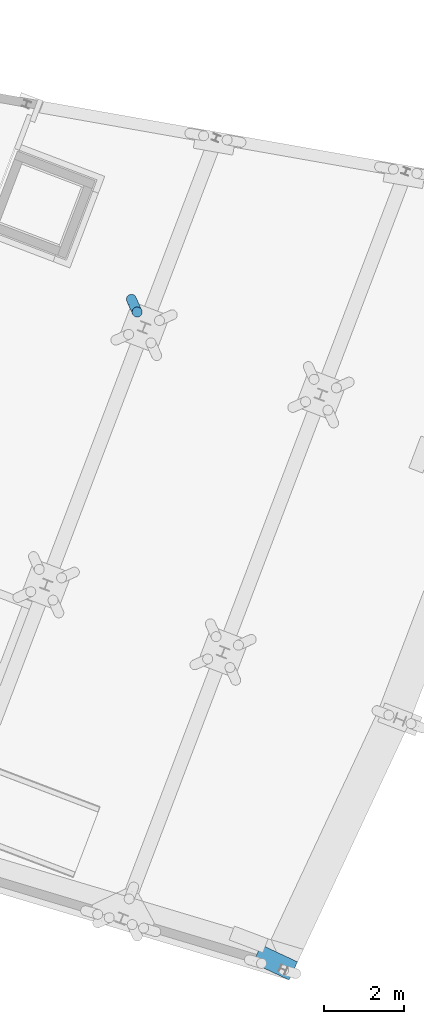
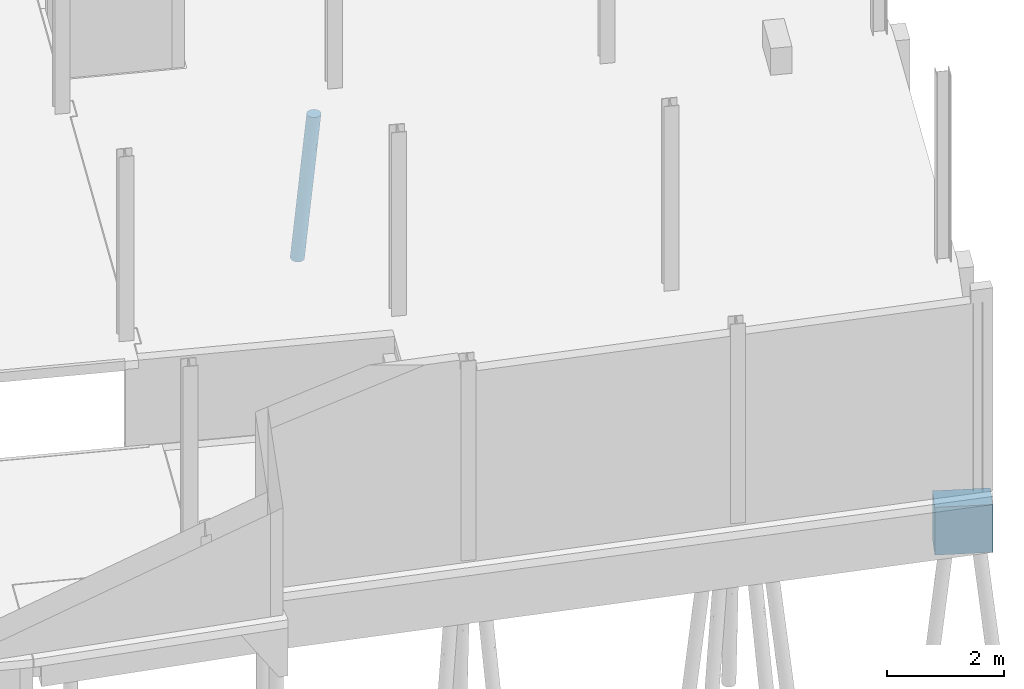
# One storey, part 16 of 46: 1 footing, 1 pile.
"""IFC2X3 building model written with IfcOpenShell, lengths in millimetres."""

from ifc_helpers import new_model, entity, si_unit, converted_unit, derived_unit, direction, frame, frame_2d, origin, place, context, subcontext, project, spatial, rectangle, extrude, faceted_brep, source, transform, mapped, material, type_object, type_shapes, element, save


model = new_model("IFC2X3")

# Units and contexts
model_context = context("Model", 3, precision=0.01, world=origin(), true_north=direction((6.123233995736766e-17, 1.0)))
body_context = subcontext(model_context, "Body", "Model", "MODEL_VIEW")
ifc_project = project(units=[si_unit("LENGTHUNIT", "METRE", prefix="MILLI"), converted_unit("PLANEANGLEUNIT", "DEGREE", entity("IfcPlaneAngleMeasure", 0.017453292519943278), si_unit("PLANEANGLEUNIT", "RADIAN"), dimensions=[0, 0, 0, 0, 0, 0, 0]), si_unit("AREAUNIT", "SQUARE_METRE"), derived_unit("THERMALTRANSMITTANCEUNIT", [(si_unit("MASSUNIT", "GRAM", prefix="KILO"), 1), (si_unit("THERMODYNAMICTEMPERATUREUNIT", "KELVIN"), -1), (si_unit("TIMEUNIT", "SECOND"), -3)])], contexts=[model_context])

# Site, building, storey
site_placement = place(None, frame((-72937.88054949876, 11621.45624098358, 0.0), z_axis=(0.0, 0.0, 1.0), x_axis=(0.9346418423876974, -0.35559053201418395, 0.0)))
site = spatial("IfcSite", under=ifc_project, at=site_placement, Name="Default", CompositionType="ELEMENT")
building_placement = place(site_placement, origin())
building = spatial("IfcBuilding", under=site, at=building_placement, CompositionType="ELEMENT")
storey_placement = place(building_placement, origin())
storey = spatial("IfcBuildingStorey", under=building, at=storey_placement, Name="00 begane grond", CompositionType="ELEMENT", Elevation=0.0)

# Pile
ifc_material_1 = material(Name="beton_gewapend_prefab-element_c45/55")
type_product_1 = type_object("IfcTypeProduct", Name="Type 01", material=ifc_material_1)
shared_shape_1 = source(origin(), body_context, "Body", "Brep", [
    faceted_brep([(-21.492869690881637, -34.07967924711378, -2142.478153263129), (41.770052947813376, 0.0, -1615.9926657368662), (50.02983679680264, -41.219149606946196, -1478.3429510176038), (-120.39371842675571, -27.815116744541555, -840.0), (-209.76851175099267, 0.0, -1615.9934634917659), (-196.5141812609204, -41.35907440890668, -1560.4595682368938), (-88.87736384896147, -91.39060439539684, -2432.143714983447), (-29.01608810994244, -89.9027707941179, -1907.5825387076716), (-105.46135978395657, -105.60554685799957, -2414.744852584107), (115.53639022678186, -54.235467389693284, -840.0), (100.55257203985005, -77.93622523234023, -840.0), (44.04069234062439, -66.4881713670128, -1422.150587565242), (-241.29781855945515, -62.499999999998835, -4011.9545633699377), (-228.8866429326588, -32.35238063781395, -4013.333582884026), (-181.63351961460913, -47.83542906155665, -3540.4622999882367), (127.99146025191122, 0.0, -840.0), (124.838162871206, -27.815116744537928, -840.0), (56.79144948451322, -112.62110848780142, -840.0), (-1.0422673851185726, -115.29700921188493, -1306.634534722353), (80.6380595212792, -97.7289353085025, -840.0), (-148.00042706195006, -121.55050259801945, -1927.9224619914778), (-119.59016639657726, -124.7753227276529, -1868.475336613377), (-82.66188090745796, -124.23733970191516, -1479.1096584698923), (2.222222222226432, -125.0, -840.0), (-25.764066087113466, -121.86598902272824, -840.0), (35.238837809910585, -88.30507823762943, -1343.9943162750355), (-38.428481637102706, -123.46402257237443, -1382.7576650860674), (30.208510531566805, -121.86598902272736, -840.0), (-105.46067851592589, -124.17311504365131, -1939.1271630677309), (-121.64165871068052, -118.88184081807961, -2304.5646505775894), (-59.29822656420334, -117.91120533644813, -1769.4495348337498), (-224.65342205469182, 0.0, -4013.803940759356), (-181.5427184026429, 0.0, -3625.8076078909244), (-187.86059930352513, -76.09517863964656, -3448.7603995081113), (-111.16783038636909, -79.40373738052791, -2734.720867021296), (-186.42266103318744, -99.1691675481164, -3226.87509877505), (-381.04339378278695, -120.74072828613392, -3996.4272772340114), (-348.8888888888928, -125.0, -4000.0), (-294.25946310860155, -123.9306076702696, -3360.589550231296), (-119.53291308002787, -47.835429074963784, -2981.55684112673), (-105.13946974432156, -22.11026756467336, -2920.330251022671), (-71.50265177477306, -37.61355729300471, -2582.985799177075), (-160.26870491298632, -23.53094104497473, -3414.1045295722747), (-286.7711554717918, -108.25317547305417, -4006.901970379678), (-238.88036705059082, -115.48494156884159, -3443.09153660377), (-261.04114782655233, -88.38834764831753, -4009.7608601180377), (-316.7343839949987, -120.74072828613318, -4003.5727227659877), (-84.00174733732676, -60.02171841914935, -2608.908596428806), (-61.65923548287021, -74.64816535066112, -2322.8523974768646), (-173.2739820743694, -115.31995815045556, -2856.223431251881), (-151.97718420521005, -123.99260475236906, -2371.2114813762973), (-123.54701580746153, 0.0, -840.0), (-250.82857575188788, -22.617884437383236, -2004.2180489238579), (-295.9900076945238, 0.0, -2391.986926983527), (-52.347005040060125, -112.6211084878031, -840.0), (-76.19361507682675, -97.72893530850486, -840.0), (-107.44397040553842, -105.89787173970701, -1225.6035634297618), (-281.4812245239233, -123.93060767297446, -3541.076638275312), (-109.06614769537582, -117.5733672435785, -1457.2474766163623), (-111.0919457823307, -54.235467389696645, -840.0), (-15.85514051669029, -105.72630914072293, -1606.5585830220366), (-146.68659472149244, -88.47759853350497, -1380.5978408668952), (-158.7756678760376, -105.96661342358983, -1688.5825591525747), (-348.5966640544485, -22.310072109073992, -2883.621631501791), (-384.5571817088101, 0.0, -3189.0914931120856), (-404.9818286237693, -23.95962394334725, -3393.9013620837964), (-416.2874807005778, -47.83542904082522, -3560.826702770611), (-468.89113484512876, -32.35238063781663, -3986.6664171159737), (-456.47995921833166, -62.500000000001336, -3988.0454366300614), (-337.6622645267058, -115.48494156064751, -3465.7921474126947), (-411.00662230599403, -108.25317547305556, -3993.0980296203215), (-255.6918544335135, -84.13968982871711, -2324.129304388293), (-241.96823570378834, -100.09571921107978, -2359.7174741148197), (-204.57839676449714, -89.69967503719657, -1912.8684599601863), (-96.10812759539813, -77.93622523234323, -840.0), (-436.73662995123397, -88.38834764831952, -3990.239139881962), (-377.92930595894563, -99.16916753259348, -3572.292603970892), (-206.96183482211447, -60.377923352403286, -1731.5361763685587), (-358.429549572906, -47.83542903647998, -3040.1053226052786), (-296.17437932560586, -43.53585544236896, -2464.518236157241), (-379.61635653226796, -76.09517861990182, -3378.5322028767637), (-430.0136077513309, 0.0, -3598.199327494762), (-306.35511538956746, -77.61365432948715, -2729.9013330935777), (-213.4617402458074, -118.14633713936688, -2411.4959163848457), (-159.2186646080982, -65.41382269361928, -1328.4086999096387), (-67.97340634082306, -109.92592992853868, -2010.6352011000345), (-179.43548008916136, -124.76102802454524, -2404.9604566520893), (-13.219750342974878, -66.34050229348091, -1938.3332116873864), (-236.17409644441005, -124.51562049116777, -2886.015168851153), (-268.30597333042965, -110.23172722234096, -2741.026078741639), (-270.10864031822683, -119.49229851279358, -2958.6820679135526), (-320.7170568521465, -99.16916752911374, -3057.382361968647), (-473.12435572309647, 0.0, -3986.1960592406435), (-138.91569201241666, -99.37675608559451, -2796.855638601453), (-220.46267944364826, -123.93060767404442, -2991.9097324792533), (-44.45135435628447, 0.0, -2391.9853314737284), (-247.15908292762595, -66.69543969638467, -2127.0964328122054), (-134.55238820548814, 0.0, -3202.894636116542), (-89.50217198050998, 0.0, -2797.4426900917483), (-303.09738986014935, -21.900839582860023, -2473.4623287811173), (-340.273594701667, 0.0, -2790.539210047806), (-246.59414544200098, -45.75852255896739, -2025.9931784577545), (124.83816287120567, 27.815116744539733, -840.0), (115.53639022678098, 54.23546738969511, -840.0), (100.55257203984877, 77.93622523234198, -840.0), (80.63805952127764, 97.72893530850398, -840.0), (56.7914494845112, 112.62110848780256, -840.0), (30.20851053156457, 121.86598902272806, -840.0), (2.222222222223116, 125.0, -840.0), (-25.764066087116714, 121.86598902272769, -840.0), (-52.3470050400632, 112.62110848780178, -840.0), (-76.19361507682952, 97.72893530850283, -840.0), (-96.1081275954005, 77.93622523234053, -840.0), (-111.09194578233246, 54.23546738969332, -840.0), (-120.39371842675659, 27.815116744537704, -840.0), (-213.46174017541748, 118.14633716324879, -2411.4959163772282), (-268.3059732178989, 110.23172722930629, -2741.0260778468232), (-241.96823566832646, 100.09571920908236, -2359.717473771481), (-187.14229973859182, 67.59575846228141, -1592.137482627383), (-196.5141812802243, 41.359074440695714, -1560.4595685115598), (-82.66188086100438, 124.23733970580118, -1479.1096583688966), (-29.016087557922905, 89.90277069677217, -1907.5825346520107), (35.23883807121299, 88.30507821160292, -1343.9943141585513), (-13.219750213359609, 66.3405022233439, -1938.3332109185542), (-109.06614766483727, 117.57336725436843, -1457.2474766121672), (-381.04339378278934, 120.74072828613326, -3996.4272772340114), (-337.6622645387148, 115.48494156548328, -3465.7921476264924), (-294.2594631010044, 123.93060767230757, -3360.5895503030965), (-377.9293059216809, 99.16916753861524, -3572.292603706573), (-379.61635651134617, 76.09517863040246, -3378.53220276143), (-320.717056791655, 99.16916754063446, -3057.382361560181), (-286.77115547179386, 108.25317547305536, -4006.901970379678), (-238.88036707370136, 115.48494156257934, -3443.0915369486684), (-186.42266103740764, 99.16916753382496, -3226.875098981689), (-241.29781855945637, 62.50000000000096, -4011.9545633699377), (-181.63351956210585, 47.835429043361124, -3540.4622995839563), (-228.88664293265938, 32.352380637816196, -4013.333582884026), (-107.44397039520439, 105.89787175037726, -1225.6035634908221), (-38.428481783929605, 123.46402262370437, -1382.7576634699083), (-468.89113484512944, 32.35238063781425, -3986.6664171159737), (-173.2739821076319, 115.31995832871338, -2856.223427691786), (-138.91569233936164, 99.37675620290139, -2796.855640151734), (-160.26870486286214, 23.530941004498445, -3414.104529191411), (-261.041147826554, 88.38834764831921, -4009.7608601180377), (-187.86059935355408, 76.09517862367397, -3448.760400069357), (-306.35511542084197, 77.61365434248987, -2729.9013334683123), (-348.8888888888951, 125.0, -4000.0), (-456.47995921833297, 62.49999999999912, -3988.0454366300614), (-416.2874806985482, 47.83542904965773, -3560.826702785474), (-411.0066223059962, 108.25317547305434, -3993.0980296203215), (-436.7366299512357, 88.38834764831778, -3990.239139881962), (-84.00174724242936, 60.02171839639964, -2608.9085956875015), (-21.492869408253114, 34.07967918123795, -2142.4781508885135), (-71.50265159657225, 37.613557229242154, -2582.9857977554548), (-220.46267940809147, 123.93060767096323, -2991.909732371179), (-281.48122449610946, 123.9306076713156, -3541.07663813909), (-148.0004270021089, 121.5505026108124, -1927.922461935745), (-158.7756678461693, 105.9666134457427, -1688.5825592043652), (-15.85514048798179, 105.72630911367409, -1606.5585831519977), (-59.298225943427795, 117.91120535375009, -1769.449528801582), (-1.0422669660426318, 115.29700910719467, -1306.634533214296), (-270.1086403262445, 119.49229851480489, -2958.682068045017), (50.02983688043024, 41.21914955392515, -1478.342950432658), (-146.6865947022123, 88.47759855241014, -1380.5978408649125), (-358.42954957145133, 47.83542905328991, -3040.1053226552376), (-348.59666404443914, 22.310072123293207, -2883.6216314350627), (-296.1743793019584, 43.535855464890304, -2464.5182360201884), (57.21126448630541, 65.80573689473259, -1307.4694469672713), (-121.64165783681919, 118.88184074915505, -2304.564644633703), (-67.97340649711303, 109.92593000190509, -2010.6352012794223), (-105.13946990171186, 22.110267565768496, -2920.330252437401), (-179.4354799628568, 124.7610280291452, -2404.960456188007), (-316.73438399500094, 120.7407282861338, -4003.5727227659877), (-119.53291301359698, 47.8354290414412, -2981.5568406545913), (-250.82857577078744, 22.617884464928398, -2004.2180491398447), (-404.98182862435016, 23.959623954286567, -3393.9013621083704), (-61.65923550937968, 74.64816548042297, -2322.852396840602), (-243.17628094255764, 45.971171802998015, -1995.991919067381), (-105.46135971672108, 105.60554680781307, -2414.7448526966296), (-111.16783063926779, 79.40373735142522, -2734.7208695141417), (-119.59016630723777, 124.7753227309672, -1868.4753363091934), (-236.17409637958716, 124.515620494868, -2886.0151686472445), (-204.5783966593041, 89.69967507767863, -1912.8684593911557), (-247.1590829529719, 66.69543974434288, -2127.0964333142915), (-88.87736442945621, 91.39060438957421, -2432.1437202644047), (-255.69185439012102, 84.13968979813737, -2324.1293037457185), (-168.1781585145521, 123.85607816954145, -2526.387901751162), (-105.46067843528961, 124.17311503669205, -1939.1271628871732), (-303.0973898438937, 21.90083960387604, -2473.4623286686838)], [[[0, 1, 2]], [[3, 4, 5]], [[6, 7, 8]], [[9, 10, 11]], [[12, 13, 14]], [[1, 15, 16]], [[17, 18, 19]], [[20, 21, 22]], [[22, 23, 24]], [[10, 19, 25]], [[26, 18, 27]], [[23, 22, 26]], [[28, 29, 30]], [[13, 31, 32]], [[33, 34, 35]], [[36, 37, 38]], [[39, 40, 41]], [[14, 42, 39]], [[43, 35, 44]], [[33, 35, 45]], [[43, 44, 46]], [[47, 48, 34]], [[49, 29, 50]], [[3, 51, 4]], [[30, 26, 28]], [[52, 4, 53]], [[54, 55, 56]], [[57, 38, 37]], [[58, 24, 54]], [[57, 37, 46]], [[3, 5, 59]], [[2, 16, 9]], [[4, 52, 5]], [[25, 60, 7]], [[45, 35, 43]], [[61, 62, 56]], [[63, 64, 65]], [[66, 67, 68]], [[69, 36, 38]], [[36, 69, 70]], [[71, 72, 73]], [[61, 55, 74]], [[75, 70, 76]], [[61, 77, 73]], [[63, 78, 79]], [[75, 76, 80]], [[64, 81, 65]], [[78, 80, 82]], [[75, 80, 68]], [[72, 83, 62]], [[5, 84, 59]], [[29, 8, 85]], [[11, 10, 25]], [[28, 21, 86]], [[45, 12, 33]], [[49, 44, 35]], [[58, 54, 56]], [[22, 58, 20]], [[0, 2, 87]], [[1, 16, 2]], [[88, 86, 83]], [[39, 42, 40]], [[89, 69, 90]], [[74, 59, 84]], [[62, 73, 72]], [[82, 80, 91]], [[66, 80, 78]], [[14, 33, 12]], [[67, 81, 92]], [[34, 33, 39]], [[39, 41, 47]], [[34, 6, 93]], [[35, 93, 49]], [[57, 44, 94]], [[90, 69, 38]], [[76, 69, 91]], [[34, 39, 47]], [[1, 0, 95]], [[72, 82, 91]], [[82, 96, 79]], [[72, 91, 89]], [[62, 61, 73]], [[32, 42, 13]], [[33, 14, 39]], [[44, 57, 46]], [[38, 57, 94]], [[42, 32, 97]], [[42, 97, 40]], [[13, 42, 14]], [[40, 97, 98, 95]], [[41, 95, 0]], [[61, 56, 55]], [[58, 56, 62]], [[20, 62, 83]], [[24, 58, 22]], [[62, 20, 58]], [[20, 83, 86]], [[83, 90, 88]], [[28, 50, 29]], [[90, 38, 88]], [[89, 90, 83]], [[95, 41, 40]], [[47, 0, 87]], [[0, 47, 41]], [[48, 47, 87]], [[7, 48, 87]], [[6, 34, 48]], [[87, 2, 11]], [[7, 60, 85]], [[60, 25, 19]], [[11, 7, 87]], [[7, 6, 48]], [[93, 6, 8]], [[93, 8, 49]], [[34, 93, 35]], [[29, 49, 8]], [[94, 44, 49]], [[30, 85, 60]], [[28, 86, 50]], [[18, 30, 60]], [[18, 26, 30]], [[23, 26, 27]], [[21, 26, 22]], [[19, 18, 60]], [[18, 17, 27]], [[77, 61, 84]], [[71, 96, 82]], [[72, 89, 83]], [[69, 89, 91]], [[38, 94, 88]], [[50, 88, 94]], [[80, 66, 68]], [[65, 67, 66]], [[78, 63, 65]], [[67, 65, 81]], [[78, 65, 66]], [[78, 82, 79]], [[99, 100, 63]], [[79, 101, 52]], [[99, 63, 79]], [[69, 76, 70]], [[80, 76, 91]], [[96, 71, 73]], [[82, 72, 71]], [[29, 85, 30]], [[7, 85, 8]], [[99, 52, 53]], [[101, 79, 96]], [[77, 84, 5]], [[74, 84, 61]], [[86, 21, 20]], [[26, 21, 28]], [[9, 11, 2]], [[7, 11, 25]], [[88, 50, 86]], [[49, 50, 94]], [[52, 99, 79]], [[100, 64, 63]], [[100, 99, 53]], [[77, 101, 96]], [[5, 52, 101]], [[101, 77, 5]], [[73, 77, 96]], [[24, 23, 27, 17, 19, 10, 9, 16, 15, 102, 103, 104, 105, 106, 107, 108, 109, 110, 111, 112, 113, 114, 51, 3, 59, 74, 55, 54]], [[51, 114, 4]], [[115, 116, 117]], [[118, 113, 112]], [[119, 114, 113]], [[120, 109, 108]], [[121, 122, 123]], [[120, 124, 109]], [[125, 126, 127]], [[128, 129, 130]], [[131, 132, 133]], [[134, 135, 136]], [[137, 111, 110]], [[138, 108, 107]], [[139, 92, 81]], [[140, 141, 133]], [[142, 97, 32]], [[143, 133, 144]], [[130, 129, 145]], [[146, 125, 127]], [[147, 139, 148]], [[149, 150, 128]], [[151, 152, 153]], [[154, 155, 127]], [[124, 156, 157]], [[158, 159, 160]], [[4, 114, 119]], [[160, 107, 106]], [[161, 127, 126]], [[103, 102, 162]], [[158, 160, 105]], [[111, 137, 163]], [[164, 165, 166]], [[105, 104, 122]], [[102, 15, 1]], [[167, 103, 162]], [[167, 123, 122]], [[168, 159, 169]], [[170, 97, 142]], [[115, 156, 171]], [[155, 172, 146]], [[163, 118, 112]], [[169, 159, 158]], [[111, 163, 112]], [[143, 131, 133]], [[130, 145, 117]], [[134, 143, 144]], [[123, 162, 152]], [[129, 150, 147]], [[173, 151, 153]], [[119, 174, 4]], [[148, 175, 164]], [[121, 123, 176]], [[166, 174, 177]], [[140, 168, 178]], [[131, 172, 132]], [[144, 179, 173]], [[171, 156, 180]], [[124, 157, 137]], [[102, 1, 162]], [[152, 1, 95]], [[125, 149, 126]], [[136, 32, 31]], [[115, 181, 161]], [[182, 157, 117]], [[118, 183, 177]], [[148, 129, 147]], [[164, 166, 145]], [[155, 132, 172]], [[164, 175, 165]], [[141, 140, 178]], [[179, 144, 133]], [[135, 144, 173]], [[178, 184, 141]], [[151, 176, 123]], [[128, 126, 149]], [[161, 116, 115]], [[1, 152, 162]], [[95, 170, 153]], [[164, 145, 129]], [[163, 157, 182]], [[185, 183, 182]], [[115, 117, 157]], [[144, 135, 134]], [[142, 136, 135]], [[127, 155, 146]], [[132, 155, 154]], [[173, 170, 142]], [[136, 142, 32]], [[173, 142, 135]], [[153, 170, 173]], [[170, 95, 98, 97]], [[110, 109, 124]], [[163, 137, 157]], [[124, 137, 110]], [[156, 124, 120]], [[180, 156, 120]], [[157, 156, 115]], [[186, 187, 168]], [[161, 181, 127]], [[116, 126, 130]], [[181, 115, 171]], [[173, 179, 151]], [[95, 153, 152]], [[176, 151, 179]], [[152, 151, 123]], [[179, 184, 176]], [[178, 169, 121]], [[121, 176, 184]], [[158, 105, 122]], [[103, 167, 104]], [[158, 122, 121]], [[141, 179, 133]], [[121, 184, 178]], [[179, 141, 184]], [[140, 133, 132]], [[132, 154, 140]], [[181, 186, 154]], [[186, 140, 154]], [[168, 187, 159]], [[138, 159, 187]], [[107, 160, 138]], [[180, 138, 187]], [[108, 138, 120]], [[138, 160, 159]], [[105, 160, 106]], [[185, 182, 117]], [[118, 182, 183]], [[126, 116, 161]], [[117, 116, 130]], [[186, 181, 171]], [[154, 127, 181]], [[81, 175, 139]], [[129, 148, 164]], [[175, 81, 64]], [[175, 64, 165]], [[139, 175, 148]], [[165, 64, 100]], [[166, 183, 145]], [[165, 188, 166]], [[174, 53, 4]], [[129, 128, 150]], [[126, 128, 130]], [[117, 145, 185]], [[183, 185, 145]], [[121, 169, 158]], [[168, 169, 178]], [[177, 174, 119]], [[188, 174, 166]], [[113, 118, 119]], [[182, 118, 163]], [[138, 180, 120]], [[171, 180, 187]], [[123, 167, 162]], [[104, 167, 122]], [[187, 186, 171]], [[140, 186, 168]], [[100, 188, 165]], [[188, 100, 53]], [[174, 188, 53]], [[118, 177, 119]], [[166, 177, 183]], [[146, 172, 131, 143, 134, 136, 31, 13, 12, 45, 43, 46, 37, 36, 70, 75, 68, 67, 92, 139, 147, 150, 149, 125]]]),
])
type_shapes(type_product_1, [shared_shape_1])
pile_placement = place(storey_placement, frame((57270.0, 29060.0, 0.0), z_axis=(0.0, 0.0, 1.0), x_axis=(0.7071067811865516, -0.7071067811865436, 0.0)))
element("IfcPile", 1, at=pile_placement, inside=storey, type_object=type_product_1, material=ifc_material_1, Name="17.21_Prefab funderingspaal rond", ObjectType="prefab paal rond", PredefinedType="NOTDEFINED", context=body_context, shape_type="MappedRepresentation", body=[
    mapped(shared_shape_1, transform((0.0, 0.0, 0.0), scale=1.0)),
])

# Footing
ifc_material_2 = material(Name="beton_gewapend_ihw")
type_product_2 = type_object("IfcTypeProduct", Name="poer 500x1000x1170mm", material=ifc_material_2)
shared_shape_2 = source(origin(), body_context, "Body", "SweptSolid", [
    extrude(rectangle(XDim=1000.0000000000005, YDim=499.999999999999, at=frame_2d((48.53011247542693, 3.21310668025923), x_axis=(1.0, 0.0))), frame((65777.92479899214, 15134.66500452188, -718.5301124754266), z_axis=(0.9972637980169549, -0.07392507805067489, 0.0), x_axis=(0.0, 0.0, 1.0)), (0.0, 0.0, 1.0), 999.999999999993),
])
type_shapes(type_product_2, [shared_shape_2])
footing_placement = place(storey_placement, frame((0.0, 0.0, -60.0)))
element("IfcFooting", 2, at=footing_placement, inside=storey, type_object=type_product_2, material=ifc_material_2, Name="16.13_Poer rechthoek", ObjectType="betonpoer rechthoekig", PredefinedType="PILE_CAP", context=body_context, shape_type="MappedRepresentation", body=[
    mapped(shared_shape_2, transform((0.0, 0.0, 0.0), scale=1.0)),
])

save(model, "model.ifc")
